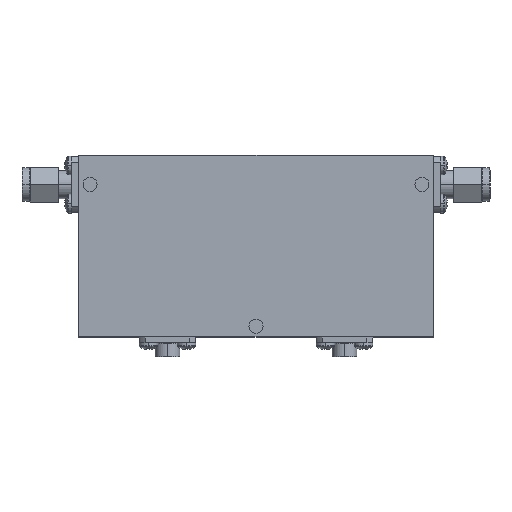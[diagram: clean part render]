
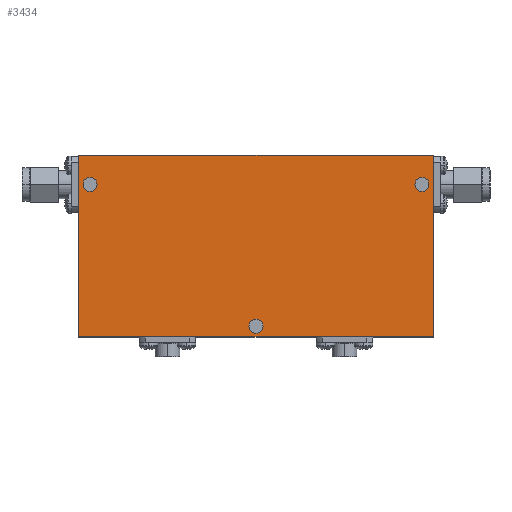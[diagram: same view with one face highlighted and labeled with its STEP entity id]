
A CAD part, top view. The second image highlights one B-rep face of the part: STEP entity #3434.
In plain terms, the highlighted planar face has unit normal (0, 0, 1).
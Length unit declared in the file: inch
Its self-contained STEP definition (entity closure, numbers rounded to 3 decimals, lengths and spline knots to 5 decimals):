
#75 = EDGE_CURVE ( 'NONE', #3402, #3818, #1579, .T. ) ;
#100 = FACE_OUTER_BOUND ( 'NONE', #1653, .T. ) ;
#112 = CARTESIAN_POINT ( 'NONE',  ( 0., -0.715, 0.365 ) ) ;
#144 = DIRECTION ( 'NONE',  ( 0., 0., 1. ) ) ;
#156 = ORIENTED_EDGE ( 'NONE', *, *, #2897, .T. ) ;
#313 = DIRECTION ( 'NONE',  ( 0., 0., 1. ) ) ;
#329 = VECTOR ( 'NONE', #1375, 39.37008 ) ;
#330 = VERTEX_POINT ( 'NONE', #3636 ) ;
#477 = CARTESIAN_POINT ( 'NONE',  ( -1.58, -0.81, 0.365 ) ) ;
#517 = AXIS2_PLACEMENT_3D ( 'NONE', #112, #144, #1853 ) ;
#523 = CIRCLE ( 'NONE', #849, 0.0625 ) ;
#539 = EDGE_CURVE ( 'NONE', #1652, #1972, #523, .T. ) ;
#630 = CARTESIAN_POINT ( 'NONE',  ( 1.48, 0.55, 0.365 ) ) ;
#631 = CIRCLE ( 'NONE', #1863, 0.0625 ) ;
#661 = CARTESIAN_POINT ( 'NONE',  ( 1.4175, 0.55, 0.365 ) ) ;
#764 = LINE ( 'NONE', #1904, #4283 ) ;
#849 = AXIS2_PLACEMENT_3D ( 'NONE', #3123, #3110, #1770 ) ;
#911 = ORIENTED_EDGE ( 'NONE', *, *, #4008, .F. ) ;
#947 = DIRECTION ( 'NONE',  ( 0., 0., 1. ) ) ;
#999 = DIRECTION ( 'NONE',  ( 0., 0., 1. ) ) ;
#1240 = CARTESIAN_POINT ( 'NONE',  ( -0.0625, -0.715, 0.365 ) ) ;
#1316 = CIRCLE ( 'NONE', #1688, 0.0625 ) ;
#1342 = EDGE_LOOP ( 'NONE', ( #3328, #2463 ) ) ;
#1375 = DIRECTION ( 'NONE',  ( -1., 0., 0. ) ) ;
#1393 = ORIENTED_EDGE ( 'NONE', *, *, #75, .T. ) ;
#1485 = CIRCLE ( 'NONE', #4053, 0.0625 ) ;
#1579 = LINE ( 'NONE', #3722, #1802 ) ;
#1652 = VERTEX_POINT ( 'NONE', #661 ) ;
#1653 = EDGE_LOOP ( 'NONE', ( #1393, #156, #1783, #3443 ) ) ;
#1688 = AXIS2_PLACEMENT_3D ( 'NONE', #630, #3679, #4039 ) ;
#1716 = DIRECTION ( 'NONE',  ( 1., 0., 0. ) ) ;
#1737 = CARTESIAN_POINT ( 'NONE',  ( 1.58, 0.81, 0.365 ) ) ;
#1770 = DIRECTION ( 'NONE',  ( 1., 0., 0. ) ) ;
#1783 = ORIENTED_EDGE ( 'NONE', *, *, #2613, .T. ) ;
#1802 = VECTOR ( 'NONE', #4386, 39.37008 ) ;
#1817 = EDGE_CURVE ( 'NONE', #3379, #3402, #1843, .T. ) ;
#1843 = LINE ( 'NONE', #477, #3663 ) ;
#1853 = DIRECTION ( 'NONE',  ( 1., 0., 0. ) ) ;
#1863 = AXIS2_PLACEMENT_3D ( 'NONE', #3949, #3604, #2926 ) ;
#1871 = VERTEX_POINT ( 'NONE', #4165 ) ;
#1904 = CARTESIAN_POINT ( 'NONE',  ( -1.58, 0.81, 0.365 ) ) ;
#1919 = FACE_BOUND ( 'NONE', #2128, .T. ) ;
#1972 = VERTEX_POINT ( 'NONE', #2902 ) ;
#2027 = CIRCLE ( 'NONE', #517, 0.0625 ) ;
#2128 = EDGE_LOOP ( 'NONE', ( #2398, #911 ) ) ;
#2209 = CARTESIAN_POINT ( 'NONE',  ( -1.58, -0.81, 0.365 ) ) ;
#2239 = PLANE ( 'NONE',  #2482 ) ;
#2247 = DIRECTION ( 'NONE',  ( 0., -1., 0. ) ) ;
#2313 = AXIS2_PLACEMENT_3D ( 'NONE', #2331, #313, #1716 ) ;
#2331 = CARTESIAN_POINT ( 'NONE',  ( 0., -0.715, 0.365 ) ) ;
#2398 = ORIENTED_EDGE ( 'NONE', *, *, #4298, .F. ) ;
#2463 = ORIENTED_EDGE ( 'NONE', *, *, #3650, .F. ) ;
#2482 = AXIS2_PLACEMENT_3D ( 'NONE', #4012, #947, #4321 ) ;
#2587 = CARTESIAN_POINT ( 'NONE',  ( 1.58, -0.81, 0.365 ) ) ;
#2613 = EDGE_CURVE ( 'NONE', #3755, #3379, #764, .T. ) ;
#2713 = CARTESIAN_POINT ( 'NONE',  ( -1.58, 0.81, 0.365 ) ) ;
#2841 = CARTESIAN_POINT ( 'NONE',  ( -1.5425, 0.55, 0.365 ) ) ;
#2847 = LINE ( 'NONE', #2713, #329 ) ;
#2897 = EDGE_CURVE ( 'NONE', #3818, #3755, #2847, .T. ) ;
#2902 = CARTESIAN_POINT ( 'NONE',  ( 1.5425, 0.55, 0.365 ) ) ;
#2926 = DIRECTION ( 'NONE',  ( 1., 0., 0. ) ) ;
#3064 = CARTESIAN_POINT ( 'NONE',  ( -1.48, 0.55, 0.365 ) ) ;
#3094 = EDGE_CURVE ( 'NONE', #330, #4030, #2027, .T. ) ;
#3110 = DIRECTION ( 'NONE',  ( 0., 0., 1. ) ) ;
#3123 = CARTESIAN_POINT ( 'NONE',  ( 1.48, 0.55, 0.365 ) ) ;
#3192 = EDGE_LOOP ( 'NONE', ( #4367, #3960 ) ) ;
#3328 = ORIENTED_EDGE ( 'NONE', *, *, #3094, .F. ) ;
#3349 = FACE_BOUND ( 'NONE', #1342, .T. ) ;
#3379 = VERTEX_POINT ( 'NONE', #2209 ) ;
#3393 = DIRECTION ( 'NONE',  ( 1., 0., 0. ) ) ;
#3402 = VERTEX_POINT ( 'NONE', #2587 ) ;
#3434 = ADVANCED_FACE ( 'NONE', ( #3944, #3349, #1919, #100 ), #2239, .T. ) ;
#3443 = ORIENTED_EDGE ( 'NONE', *, *, #1817, .T. ) ;
#3604 = DIRECTION ( 'NONE',  ( 0., 0., 1. ) ) ;
#3636 = CARTESIAN_POINT ( 'NONE',  ( 0.0625, -0.715, 0.365 ) ) ;
#3650 = EDGE_CURVE ( 'NONE', #4030, #330, #3731, .T. ) ;
#3663 = VECTOR ( 'NONE', #3847, 39.37008 ) ;
#3679 = DIRECTION ( 'NONE',  ( 0., 0., 1. ) ) ;
#3722 = CARTESIAN_POINT ( 'NONE',  ( 1.58, 0.81, 0.365 ) ) ;
#3731 = CIRCLE ( 'NONE', #2313, 0.0625 ) ;
#3755 = VERTEX_POINT ( 'NONE', #4160 ) ;
#3818 = VERTEX_POINT ( 'NONE', #1737 ) ;
#3847 = DIRECTION ( 'NONE',  ( 1., 0., 0. ) ) ;
#3865 = VERTEX_POINT ( 'NONE', #2841 ) ;
#3944 = FACE_BOUND ( 'NONE', #3192, .T. ) ;
#3949 = CARTESIAN_POINT ( 'NONE',  ( -1.48, 0.55, 0.365 ) ) ;
#3960 = ORIENTED_EDGE ( 'NONE', *, *, #539, .F. ) ;
#4008 = EDGE_CURVE ( 'NONE', #3865, #1871, #631, .T. ) ;
#4012 = CARTESIAN_POINT ( 'NONE',  ( 0., 0., 0.365 ) ) ;
#4030 = VERTEX_POINT ( 'NONE', #1240 ) ;
#4039 = DIRECTION ( 'NONE',  ( 1., 0., 0. ) ) ;
#4053 = AXIS2_PLACEMENT_3D ( 'NONE', #3064, #999, #3393 ) ;
#4131 = EDGE_CURVE ( 'NONE', #1972, #1652, #1316, .T. ) ;
#4160 = CARTESIAN_POINT ( 'NONE',  ( -1.58, 0.81, 0.365 ) ) ;
#4165 = CARTESIAN_POINT ( 'NONE',  ( -1.4175, 0.55, 0.365 ) ) ;
#4283 = VECTOR ( 'NONE', #2247, 39.37008 ) ;
#4298 = EDGE_CURVE ( 'NONE', #1871, #3865, #1485, .T. ) ;
#4321 = DIRECTION ( 'NONE',  ( 1., 0., 0. ) ) ;
#4367 = ORIENTED_EDGE ( 'NONE', *, *, #4131, .F. ) ;
#4386 = DIRECTION ( 'NONE',  ( 0., 1., 0. ) ) ;
